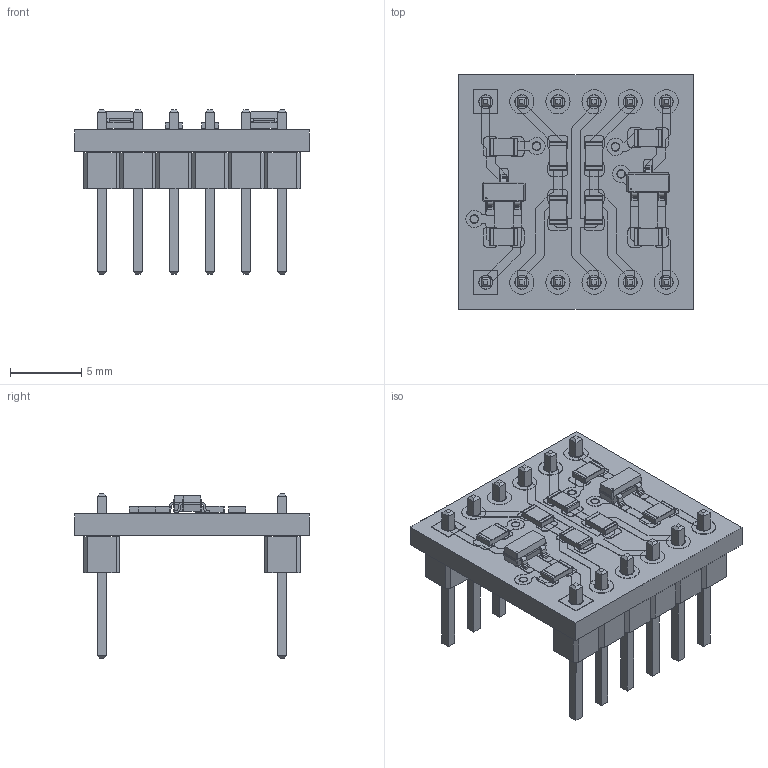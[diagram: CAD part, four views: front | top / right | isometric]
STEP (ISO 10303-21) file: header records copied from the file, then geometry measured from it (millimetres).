
FILE_DESCRIPTION(('KiCad electronic assembly'),'2;1');
FILE_NAME('gt117.step','2026-05-15T19:09:05',('Pcbnew'),('Kicad'), 'Open CASCADE STEP processor 7.6','KiCad to STEP converter','Unknown' );
FILE_SCHEMA(('AUTOMOTIVE_DESIGN { 1 0 10303 214 1 1 1 1 }'));
Length unit declared in the file: millimetre
Products named in the file (8): gt117 1; SOT-23; R_0805_2012Metric; PinHeader_1x06_P2.54mm_Vertical; gt1167_copper; gt1167_pad; gt1167_via; gt1167_PCB
Assembly tree (16 placements, depth 2):
  gt117 1
    SOT-23  x2
    R_0805_2012Metric  x8
    PinHeader_1x06_P2.54mm_Vertical  x2
    gt1167_copper
    gt1167_pad
    gt1167_via
    gt1167_PCB
Bounding box: 16.51 x 16.51 x 11.54 mm (x, y, z)
Volume: 657.1 mm3; surface area: 1816.7 mm2
Topology: 90 solids, 90 shells, 1344 faces, 3236 edges, 2098 vertices
Faces by surface type: plane 1002, cylinder 310, bspline 32
Full cylindrical faces by diameter (mm): 0.55 x4, 0.575 x8, 0.6 x4, 0.95 x36, 1 x24, 1.7 x20
Entity records: 27773 total; most frequent: CARTESIAN_POINT 4730, DIRECTION 4586, ORIENTED_EDGE 4466, EDGE_CURVE 2233, LINE 1724, VECTOR 1724, VERTEX_POINT 1463, AXIS2_PLACEMENT_3D 1431
